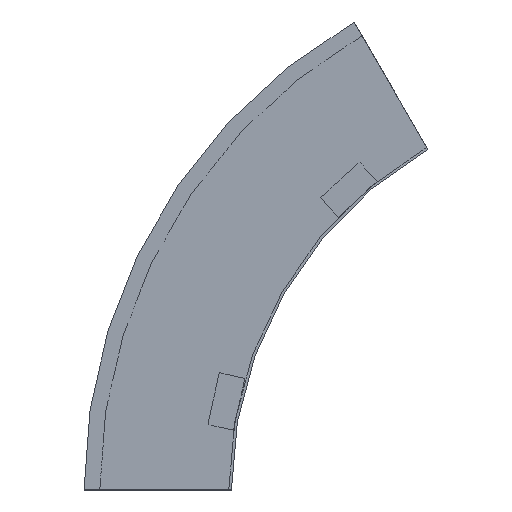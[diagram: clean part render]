
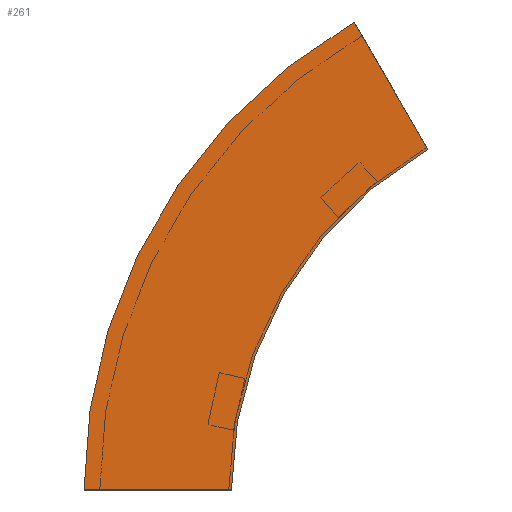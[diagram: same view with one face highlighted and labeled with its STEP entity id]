
A CAD part, left-side view. The second image highlights one B-rep face of the part: STEP entity #261.
In plain terms, the highlighted planar face has unit normal (-1, 0, 0) as drawn and (1, 0, 0) by its records, which use the part's own axes.
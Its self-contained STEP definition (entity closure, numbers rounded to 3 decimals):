
#27 = DIRECTION ( 'NONE',  ( 1., 0., 0. ) ) ;
#29 = EDGE_CURVE ( 'NONE', #144, #504, #528, .T. ) ;
#69 = AXIS2_PLACEMENT_3D ( 'NONE', #422, #76, #202 ) ;
#76 = DIRECTION ( 'NONE',  ( 1., 0., 0. ) ) ;
#81 = EDGE_LOOP ( 'NONE', ( #407, #522, #379, #518 ) ) ;
#88 = AXIS2_PLACEMENT_3D ( 'NONE', #286, #27, #554 ) ;
#104 = EDGE_CURVE ( 'NONE', #144, #485, #348, .T. ) ;
#136 = DIRECTION ( 'NONE',  ( 1., 0., 0. ) ) ;
#141 = CARTESIAN_POINT ( 'NONE',  ( 0., 0., 0. ) ) ;
#142 = DIRECTION ( 'NONE',  ( 0., 1., 0. ) ) ;
#144 = VERTEX_POINT ( 'NONE', #548 ) ;
#158 = DIRECTION ( 'NONE',  ( 0., 0.5, 0.866 ) ) ;
#170 = VECTOR ( 'NONE', #158, 1000. ) ;
#181 = VERTEX_POINT ( 'NONE', #218 ) ;
#184 = FACE_OUTER_BOUND ( 'NONE', #81, .T. ) ;
#202 = DIRECTION ( 'NONE',  ( 0., 1., 0. ) ) ;
#207 = VECTOR ( 'NONE', #142, 1000. ) ;
#218 = CARTESIAN_POINT ( 'NONE',  ( 0., -93.75, 357.235 ) ) ;
#261 = ADVANCED_FACE ( 'NONE', ( #184 ), #527, .T. ) ;
#286 = CARTESIAN_POINT ( 'NONE',  ( 0., -300., 0. ) ) ;
#315 = CARTESIAN_POINT ( 'NONE',  ( 0., 112.5, 0. ) ) ;
#348 = LINE ( 'NONE', #534, #207 ) ;
#350 = CIRCLE ( 'NONE', #69, 412.5 ) ;
#351 = DIRECTION ( 'NONE',  ( 0., 0., -1. ) ) ;
#379 = ORIENTED_EDGE ( 'NONE', *, *, #29, .F. ) ;
#390 = EDGE_CURVE ( 'NONE', #485, #181, #350, .T. ) ;
#407 = ORIENTED_EDGE ( 'NONE', *, *, #390, .T. ) ;
#413 = CARTESIAN_POINT ( 'NONE',  ( 0., -150., 259.808 ) ) ;
#422 = CARTESIAN_POINT ( 'NONE',  ( 0., -300., 0. ) ) ;
#438 = EDGE_CURVE ( 'NONE', #504, #181, #547, .T. ) ;
#473 = AXIS2_PLACEMENT_3D ( 'NONE', #141, #136, #351 ) ;
#485 = VERTEX_POINT ( 'NONE', #315 ) ;
#495 = CARTESIAN_POINT ( 'NONE',  ( 0., -150., 259.808 ) ) ;
#504 = VERTEX_POINT ( 'NONE', #495 ) ;
#518 = ORIENTED_EDGE ( 'NONE', *, *, #104, .T. ) ;
#522 = ORIENTED_EDGE ( 'NONE', *, *, #438, .F. ) ;
#527 = PLANE ( 'NONE',  #473 ) ;
#528 = CIRCLE ( 'NONE', #88, 300. ) ;
#534 = CARTESIAN_POINT ( 'NONE',  ( 0., 0., 0. ) ) ;
#547 = LINE ( 'NONE', #413, #170 ) ;
#548 = CARTESIAN_POINT ( 'NONE',  ( 0., 0., 0. ) ) ;
#554 = DIRECTION ( 'NONE',  ( 0., 1., 0. ) ) ;
